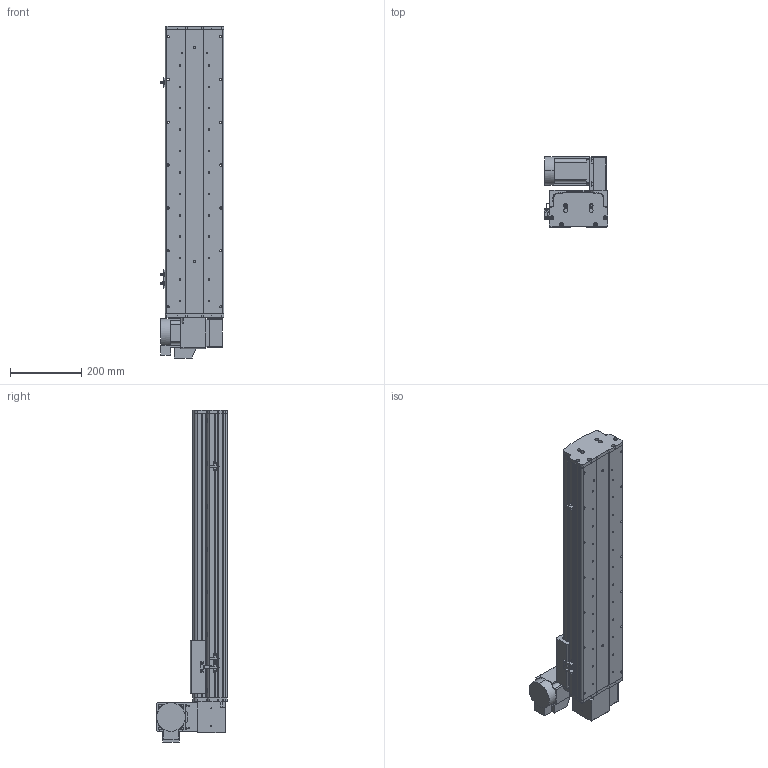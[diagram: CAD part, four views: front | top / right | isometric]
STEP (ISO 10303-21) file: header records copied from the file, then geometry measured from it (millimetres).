
FILE_DESCRIPTION (( 'STEP AP214' ), '1' );
FILE_NAME ('KSD165B-S550-MRU-CM.STEP', '2017-10-17T02:06:43', ( '微软用户' ), ( '微软中国' ), 'SwSTEP 2.0', 'SolidWorks 2014', '' );
FILE_SCHEMA (( 'AUTOMOTIVE_DESIGN' ));
Length unit declared in the file: millimetre
Products named in the file (17): KSD165B-S550-MRU-CM; 130宽模组马达安装板连板上下折丝杆同步带; 130宽模组保护罩上下左右折-同步带; HTPA26S5M250-A-H8 750W萇儂蚚; HTPA26S5M250-A-H8 400W萇儂蚚 ; KSD165模组-同步带防尘盖1-550行程-最新版; KSD165模组同步带底板-550行程-最新; 拸秶雄ん750W侜督萇儂; 165宽马达安装板同步带右; U倰嫖萇假蚾璃; U倰嫖萇EEㄜSX672; 覜茼え68遵圉猾敕; KSD165模组-同步带-防撞垫2; KSD165模组同步带-防撞垫1; KSD165耀郪-ヶ傷啣1-肮祭湍; KSD165模组-后端板1-同步带; KSD165模组-同步带滑动座-最新版
Assembly tree (20 placements, depth 2):
  KSD165B-S550-MRU-CM
    KSD165模组-同步带滑动座-最新版
    KSD165模组-后端板1-同步带
    KSD165耀郪-ヶ傷啣1-肮祭湍
    KSD165模组同步带-防撞垫1
    KSD165模组-同步带-防撞垫2
    覜茼え68遵圉猾敕
    U倰嫖萇EEㄜSX672  x3
    U倰嫖萇假蚾璃  x3
    165宽马达安装板同步带右
    拸秶雄ん750W侜督萇儂
    KSD165模组同步带底板-550行程-最新
    KSD165模组-同步带防尘盖1-550行程-最新版
    HTPA26S5M250-A-H8 400W萇儂蚚 
    HTPA26S5M250-A-H8 750W萇儂蚚
    130宽模组保护罩上下左右折-同步带
    130宽模组马达安装板连板上下折丝杆同步带
Bounding box: 178.7 x 198 x 930.5 mm (x, y, z)
Volume: 5887263.9 mm3; surface area: 1361888.1 mm2
Topology: 21 solids, 21 shells, 1903 faces, 5364 edges, 3500 vertices
Faces by surface type: cylinder 1211, plane 580, cone 112
Entity records: 61252 total; most frequent: CARTESIAN_POINT 12556, DIRECTION 10112, ORIENTED_EDGE 9388, EDGE_CURVE 4694, AXIS2_PLACEMENT_3D 3958, VERTEX_POINT 3092, CIRCLE 2252, LINE 2196
